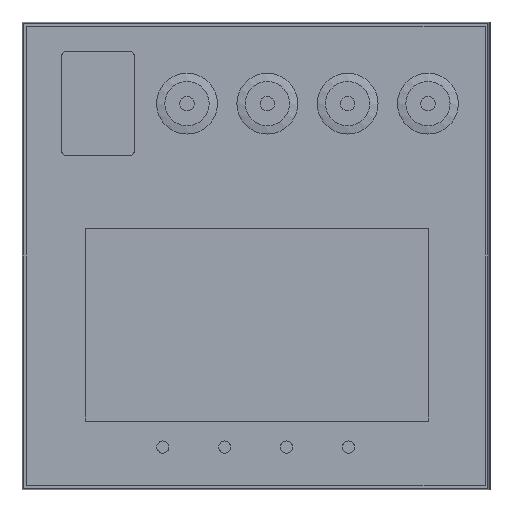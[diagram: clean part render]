
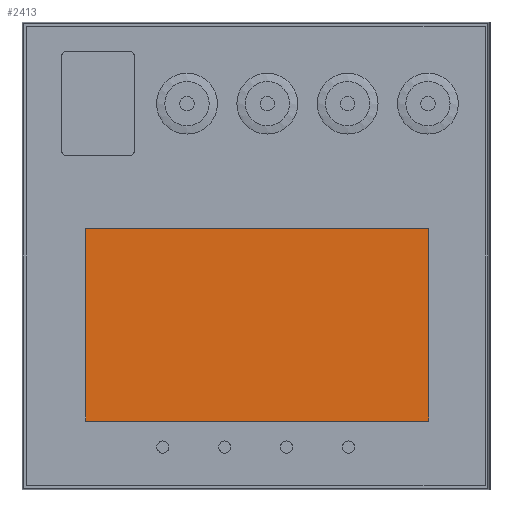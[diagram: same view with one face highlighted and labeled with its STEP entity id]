
A CAD part, left-side view. The second image highlights one B-rep face of the part: STEP entity #2413.
In plain terms, the highlighted planar face has unit normal (-1, 0, 0) as drawn and (0, 0, 1) by its records, which use the part's own axes.
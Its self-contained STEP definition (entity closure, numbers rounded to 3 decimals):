
#2413 = ADVANCED_FACE( 'NONE', ( #4936 ), #4937, .F. );
#4936 = FACE_OUTER_BOUND( '', #7709, .T. );
#4937 = PLANE( '', #7710 );
#7709 = EDGE_LOOP( '', ( #15632, #15633, #15634, #15635 ) );
#7710 = AXIS2_PLACEMENT_3D( '', #15636, #15637, #15638 );
#15632 = ORIENTED_EDGE( '', *, *, #17358, .T. );
#15633 = ORIENTED_EDGE( '', *, *, #18997, .T. );
#15634 = ORIENTED_EDGE( '', *, *, #20112, .T. );
#15635 = ORIENTED_EDGE( '', *, *, #20124, .T. );
#15636 = CARTESIAN_POINT( '', ( 0., 0., 0.1 ) );
#15637 = DIRECTION( '', ( 0., 0., -1. ) );
#15638 = DIRECTION( '', ( 0., -1., 0. ) );
#17358 = EDGE_CURVE( 'NONE', #20861, #20862, #20863, .T. );
#18997 = EDGE_CURVE( 'NONE', #20862, #23529, #23530, .T. );
#20112 = EDGE_CURVE( 'NONE', #23529, #24946, #24947, .T. );
#20124 = EDGE_CURVE( 'NONE', #24946, #20861, #24961, .T. );
#20861 = VERTEX_POINT( 'NONE', #26110 );
#20862 = VERTEX_POINT( 'NONE', #26111 );
#20863 = LINE( '', #26112, #26113 );
#23529 = VERTEX_POINT( 'NONE', #30635 );
#23530 = LINE( '', #30636, #30637 );
#24946 = VERTEX_POINT( 'NONE', #32816 );
#24947 = LINE( '', #32817, #32818 );
#24961 = LINE( '', #32838, #32839 );
#26110 = CARTESIAN_POINT( '', ( 33.9, 35.55, 0.1 ) );
#26111 = CARTESIAN_POINT( '', ( -5.6, 35.55, 0.1 ) );
#26112 = CARTESIAN_POINT( '', ( 33.9, 35.55, 0.1 ) );
#26113 = VECTOR( '', #33421, 1000. );
#30635 = CARTESIAN_POINT( '', ( -5.6, -34.95, 0.1 ) );
#30636 = CARTESIAN_POINT( '', ( -5.6, 35.55, 0.1 ) );
#30637 = VECTOR( '', #34985, 1000. );
#32816 = CARTESIAN_POINT( '', ( 33.9, -34.95, 0.1 ) );
#32817 = CARTESIAN_POINT( '', ( 33.9, -34.95, 0.1 ) );
#32818 = VECTOR( '', #35869, 1000. );
#32838 = CARTESIAN_POINT( '', ( 33.9, 35.55, 0.1 ) );
#32839 = VECTOR( '', #35876, 1000. );
#33421 = DIRECTION( '', ( -1., 0., 0. ) );
#34985 = DIRECTION( '', ( 0., -1., 0. ) );
#35869 = DIRECTION( '', ( 1., 0., 0. ) );
#35876 = DIRECTION( '', ( 0., 1., 0. ) );
